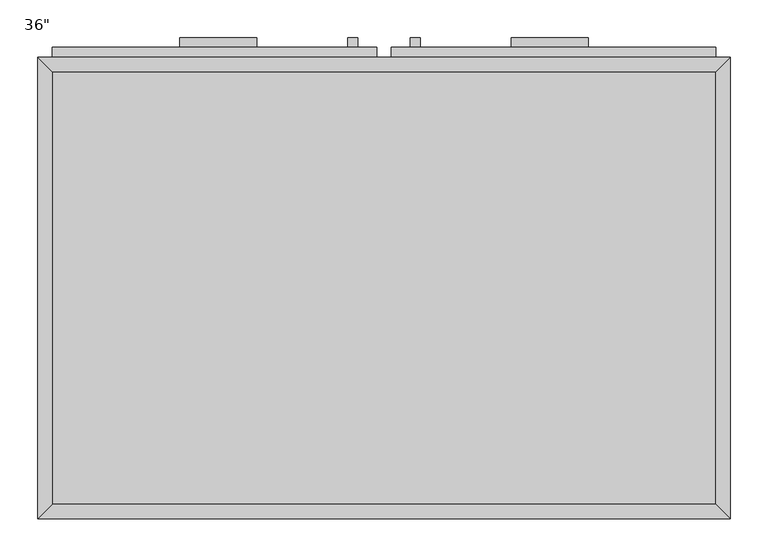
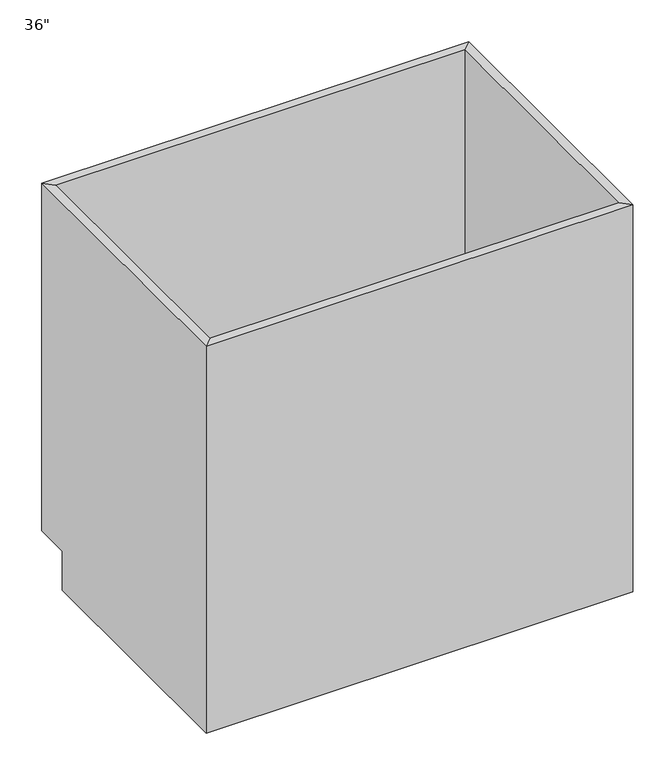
"""IFC4 building model written with IfcOpenShell, lengths in millimetres: furniture geometry."""

from ifc_helpers import new_model, si_unit, frame, origin, place, context, project, spatial, polyline, outline, extrude, faceted_brep, source, transform, mapped, element, save


def furniture_695a55eb(model_context):
    return source(origin(), model_context, "Body", "SolidModel", [
        faceted_brep([(456.8877049, 590.55, 876.3), (-419.4122951, 590.55, 876.3), (-419.4122951, 590.55, 88.9), (456.8877049, 590.55, 88.9), (475.9377049, 609.6, 876.3), (-438.4622951, 609.6, 876.3), (475.9377049, 609.6, 88.9), (-438.4622951, 609.6, 88.9), (-419.4122951, 19.05, 876.3), (-419.4122951, 19.05, 88.9), (-419.4122951, 533.4, 88.9), (-438.4622951, 0.0, 876.3), (-438.4622951, 533.4, 88.9), (-438.4622951, 533.4, 0.0), (-438.4622951, 0.0, 0.0), (456.8877049, 19.05, 876.3), (456.8877049, 19.05, 88.9), (475.9377049, 0.0, 876.3), (475.9377049, 0.0, 0.0), (456.8877049, 533.4, 88.9), (475.9377049, 533.4, 0.0), (475.9377049, 533.4, 88.9)], [[[0, 1, 2, 3]], [[0, 4, 5, 1]], [[4, 6, 7, 5]], [[2, 7, 6, 3]], [[1, 8, 9, 10, 2]], [[5, 11, 8, 1]], [[7, 12, 13, 14, 11, 5]], [[2, 10, 12, 7]], [[8, 15, 16, 9]], [[11, 17, 15, 8]], [[14, 18, 17, 11]], [[3, 19, 16, 15, 0]], [[0, 15, 17, 4]], [[4, 17, 18, 20, 21, 6]], [[6, 21, 19, 3]], [[10, 9, 16, 19]], [[18, 14, 13, 20]], [[13, 12, 10, 19, 21, 20]]]),
        extrude(outline(polyline([(-149.5372951, 635.0), (-149.5372951, 622.3), (-251.1372951, 622.3), (-251.1372951, 635.0), (-149.5372951, 635.0)])), frame((0.0, 0.0, 819.15), z_axis=(0.0, 0.0, 1.0), x_axis=(1.0, 0.0, 0.0)), (0.0, 0.0, 1.0), 12.7),
        extrude(outline(polyline([(288.6127049, 635.0), (288.6127049, 622.3), (187.0127049, 622.3), (187.0127049, 635.0), (288.6127049, 635.0)])), frame((0.0, 0.0, 819.15), z_axis=(0.0, 0.0, 1.0), x_axis=(1.0, 0.0, 0.0)), (0.0, 0.0, 1.0), 12.7),
        extrude(outline(polyline([(-16.1872951, 635.0), (-16.1872951, 622.3), (-28.8872951, 622.3), (-28.8872951, 635.0), (-16.1872951, 635.0)])), frame((0.0, 0.0, 596.9), z_axis=(0.0, 0.0, 1.0), x_axis=(1.0, 0.0, 0.0)), (0.0, 0.0, 1.0), 101.6),
        extrude(outline(polyline([(66.3627049, 635.0), (66.3627049, 622.3), (53.6627049, 622.3), (53.6627049, 635.0), (66.3627049, 635.0)])), frame((0.0, 0.0, 596.9), z_axis=(0.0, 0.0, 1.0), x_axis=(1.0, 0.0, 0.0)), (0.0, 0.0, 1.0), 101.6),
        extrude(outline(polyline([(456.8877049, 19.05), (-419.4122951, 19.05), (-419.4122951, 590.55), (456.8877049, 590.55), (456.8877049, 19.05)])), frame((0.0, 0.0, 88.9), z_axis=(0.0, 0.0, 1.0), x_axis=(1.0, 0.0, 0.0)), (0.0, 0.0, 1.0), 19.05),
        extrude(outline(polyline([(9.2127049, 622.3), (9.2127049, 609.6), (-419.4122951, 609.6), (-419.4122951, 622.3), (9.2127049, 622.3)])), frame((0.0, 0.0, 755.65), z_axis=(0.0, 0.0, 1.0), x_axis=(1.0, 0.0, 0.0)), (0.0, 0.0, 1.0), 101.6),
        extrude(outline(polyline([(456.8877049, 622.3), (456.8877049, 609.6), (28.2627049, 609.6), (28.2627049, 622.3), (456.8877049, 622.3)])), frame((0.0, 0.0, 755.65), z_axis=(0.0, 0.0, 1.0), x_axis=(1.0, 0.0, 0.0)), (0.0, 0.0, 1.0), 101.6),
        extrude(outline(polyline([(9.2127049, 622.3), (9.2127049, 609.6), (-419.4122951, 609.6), (-419.4122951, 622.3), (9.2127049, 622.3)])), frame((0.0, 0.0, 107.95), z_axis=(0.0, 0.0, 1.0), x_axis=(1.0, 0.0, 0.0)), (0.0, 0.0, 1.0), 628.65),
        extrude(outline(polyline([(456.8877049, 622.3), (456.8877049, 609.6), (28.2627049, 609.6), (28.2627049, 622.3), (456.8877049, 622.3)])), frame((0.0, 0.0, 107.95), z_axis=(0.0, 0.0, 1.0), x_axis=(1.0, 0.0, 0.0)), (0.0, 0.0, 1.0), 628.65),
    ])


if __name__ == "__main__":
    model = new_model("IFC4")
    model_context = context("Model", 3, world=origin())
    ifc_project = project(units=[si_unit("LENGTHUNIT", "METRE", prefix="MILLI")], contexts=[model_context])
    site = spatial("IfcSite", under=ifc_project)
    building = spatial("IfcBuilding", under=site)
    placement = place(None, origin())
    furniture_shape = furniture_695a55eb(model_context)
    element("IfcFurniture", 1, ObjectType="Base Cabinet-Double Door & 2 Drawer : 36\"", at=placement, inside=building, context=model_context, shape_type="MappedRepresentation", body=[
        mapped(furniture_shape, transform((0.0, 0.0, 0.0), x_axis=(1.0, 0.0, 0.0), y_axis=(0.0, 1.0, 0.0), z_axis=(0.0, 0.0, 1.0))),
    ])
    save(model, "model.ifc")
